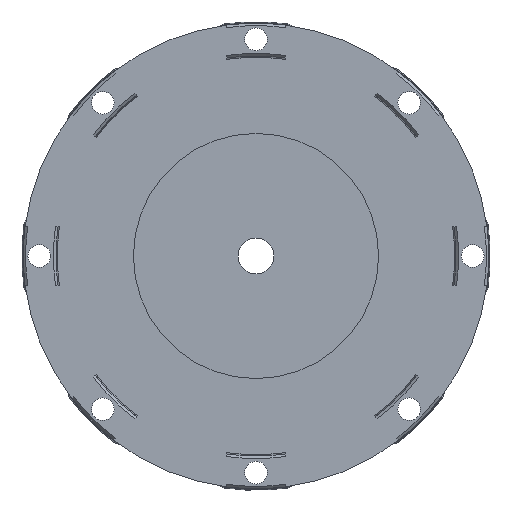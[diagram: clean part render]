
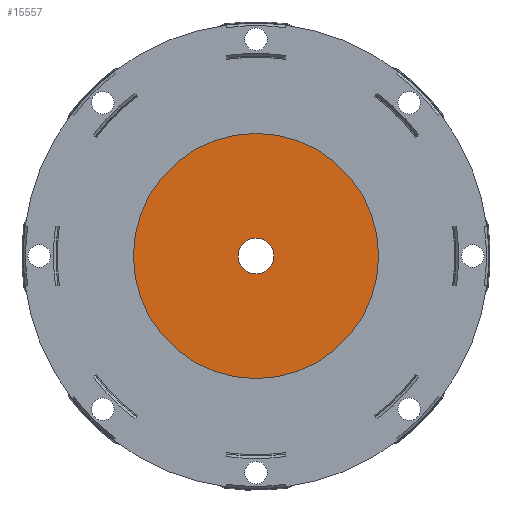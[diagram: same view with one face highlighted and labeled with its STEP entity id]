
A CAD part, left-side view. The second image highlights one B-rep face of the part: STEP entity #15557.
In plain terms, the highlighted planar face has unit normal (-1, 0, 0).
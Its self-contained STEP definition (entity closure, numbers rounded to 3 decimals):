
#66=PLANE('',#16870);
#4452=ORIENTED_EDGE('',*,*,#9282,.F.);
#4453=ORIENTED_EDGE('',*,*,#9281,.F.);
#9281=EDGE_CURVE('',#11666,#11666,#13027,.T.);
#9282=EDGE_CURVE('',#11667,#11667,#13028,.F.);
#11666=VERTEX_POINT('',#24769);
#11667=VERTEX_POINT('',#24772);
#13027=CIRCLE('',#16869,6.35);
#13028=CIRCLE('',#16871,43.688);
#13576=EDGE_LOOP('',(#4452));
#13577=EDGE_LOOP('',(#4453));
#14560=FACE_BOUND('',#13576,.T.);
#14561=FACE_BOUND('',#13577,.T.);
#15557=ADVANCED_FACE('',(#14560,#14561),#66,.T.);
#16869=AXIS2_PLACEMENT_3D('',#24768,#19394,#19395);
#16870=AXIS2_PLACEMENT_3D('',#24770,#19396,#19397);
#16871=AXIS2_PLACEMENT_3D('',#24771,#19398,#19399);
#19394=DIRECTION('',(-1.,0.,0.));
#19395=DIRECTION('',(0.,0.,1.));
#19396=DIRECTION('',(-1.,0.,0.));
#19397=DIRECTION('',(0.,0.,1.));
#19398=DIRECTION('',(-1.,0.,0.));
#19399=DIRECTION('',(0.,0.,1.));
#24768=CARTESIAN_POINT('',(0.19,0.,0.));
#24769=CARTESIAN_POINT('',(0.19,0.,6.35));
#24770=CARTESIAN_POINT('',(0.19,43.907,0.));
#24771=CARTESIAN_POINT('',(0.19,0.,0.));
#24772=CARTESIAN_POINT('',(0.19,0.,43.688));
